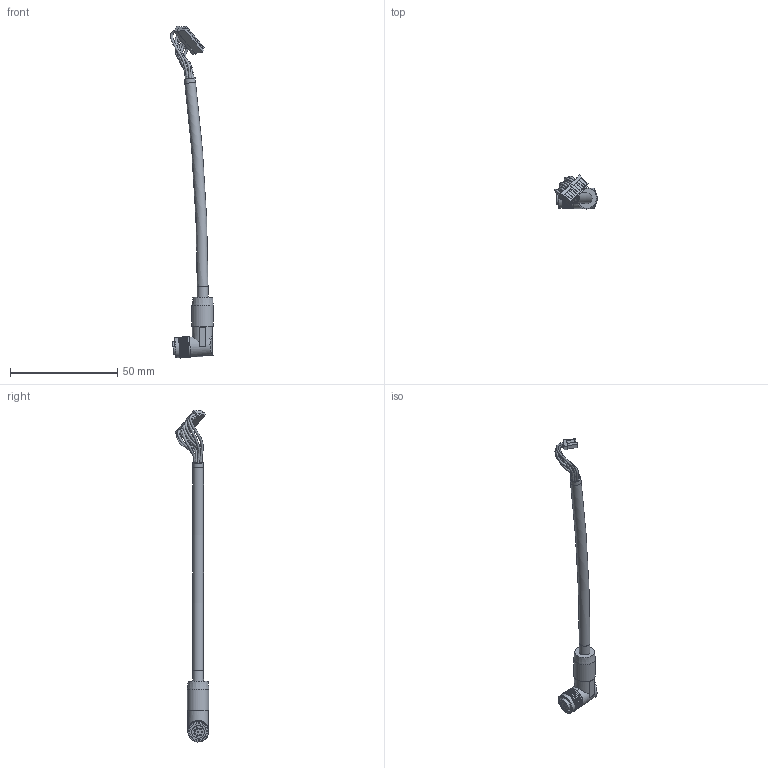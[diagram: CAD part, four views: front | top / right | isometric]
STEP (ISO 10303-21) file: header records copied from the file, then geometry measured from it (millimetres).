
FILE_DESCRIPTION(/* description */ (''),/* implementation_level */ '2;1');
FILE_NAME(/* name */ 'ZW-GPE-210-M8-BW.stp',/* time_stamp */ '2025-11-10T12:09:54+01:00',/* author */ ('vbednarz'),/* organization */ (''),/* preprocessor_version */ 'ST-DEVELOPER v20.1',/* originating_system */ 'Autodesk Inventor 2026',/* authorisation */ '');
FILE_SCHEMA (('AUTOMOTIVE_DESIGN { 1 0 10303 214 3 1 1 }'));
Length unit declared in the file: millimetre
Products named in the file (1): 3D_ZW-GPE-210-M8-BW
Bounding box: 19.92 x 15.71 x 154.54 mm (x, y, z)
Volume: 4904.7 mm3; surface area: 4479.9 mm2
Topology: 2 solids, 4 shells, 478 faces, 1196 edges, 797 vertices
Faces by surface type: plane 306, cylinder 161, bspline 8, torus 2, cone 1
Full cylindrical faces by diameter (mm): 0.7 x8, 1 x8, 5 x2, 5.8 x2, 7.75 x2, 9.35 x1, 10 x1
Entity records: 16636 total; most frequent: CARTESIAN_POINT 4147, DIRECTION 2521, ORIENTED_EDGE 2392, EDGE_CURVE 1196, AXIS2_PLACEMENT_3D 881, VERTEX_POINT 797, LINE 759, VECTOR 759
